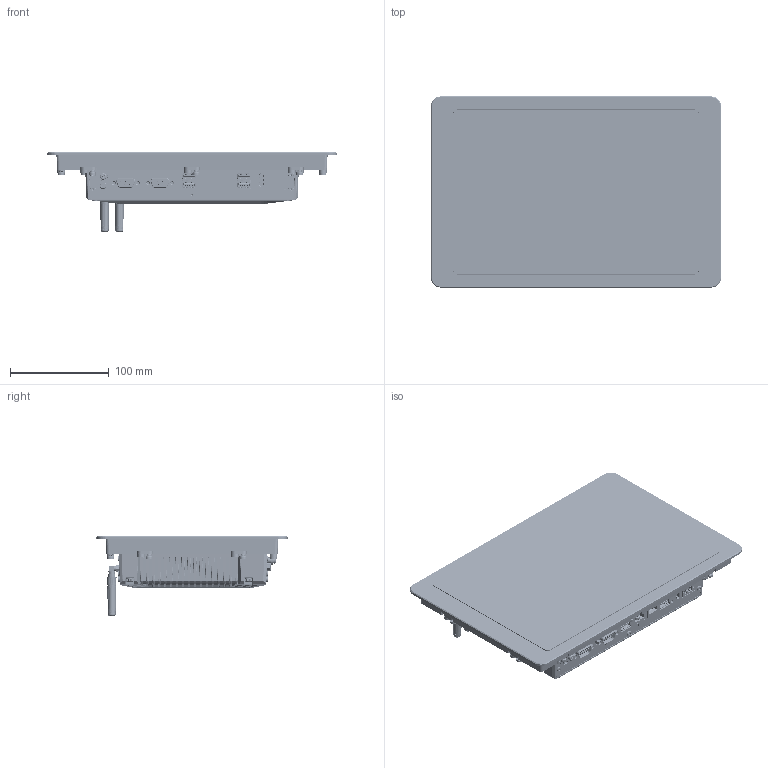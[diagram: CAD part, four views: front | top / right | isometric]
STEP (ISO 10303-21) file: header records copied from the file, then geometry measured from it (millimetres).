
FILE_DESCRIPTION (( 'STEP AP203' ), '1' );
FILE_NAME ('TPC22101-J6400K-8G-128G.STEP', '2026-01-06T02:19:36', ( '' ), ( '' ), 'SwSTEP 2.0', 'SolidWorks 2018', '' );
FILE_SCHEMA (( 'CONFIG_CONTROL_DESIGN' ));
Products named in the file (1): TPC22101-J6400K-8G-128G
Bounding box: 293.6 x 193.6 x 81.28 mm (x, y, z)
Surface area: 370559.2 mm2 (no closed solid volume)
Topology: 0 solids, 163 shells, 13054 faces, 33244 edges, 20321 vertices
Faces by surface type: plane 5204, cylinder 4900, bspline 1910, torus 457, cone 337, sphere 246
Entity records: 540757 total; most frequent: CARTESIAN_POINT 250700, ORIENTED_EDGE 65406, DIRECTION 53529, EDGE_CURVE 32776, VERTEX_POINT 20293, AXIS2_PLACEMENT_3D 18628, LINE 16273, VECTOR 16273
